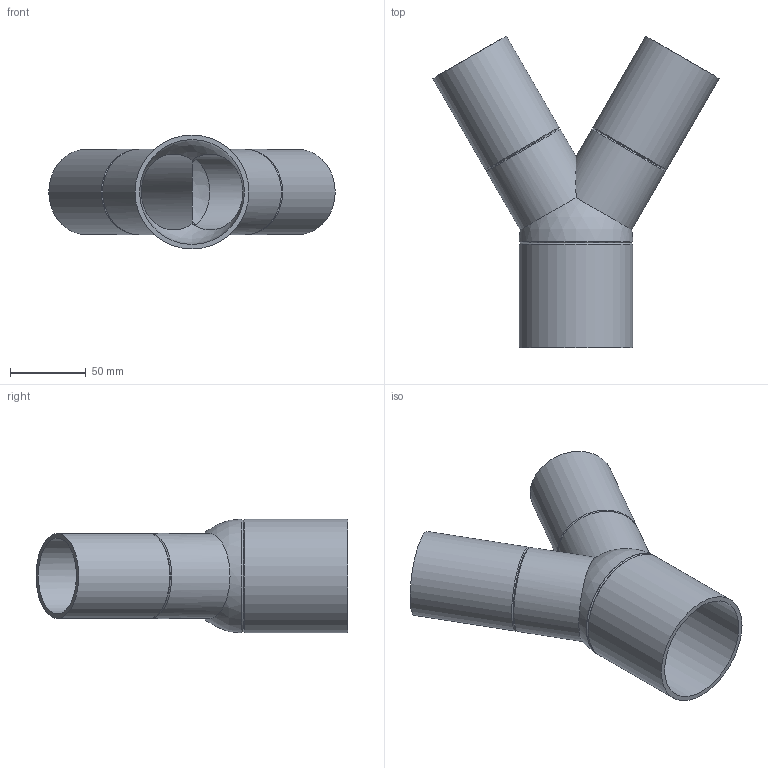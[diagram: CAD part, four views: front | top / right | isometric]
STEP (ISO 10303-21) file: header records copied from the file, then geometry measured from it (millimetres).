
FILE_DESCRIPTION(/* description */ (''),/* implementation_level */ '2;1');
FILE_NAME(/* name */ 'Z:\Geberit\Export\NewStep\365465.stp',/* time_stamp */ '2014-04-02T07:34:13+02:00',/* author */ ('nelson'),/* organization */ (''),/* preprocessor_version */ 'ST-DEVELOPER v15.2',/* originating_system */ 'Autodesk Inventor 2014',/* authorisation */ '');
FILE_SCHEMA (('AUTOMOTIVE_DESIGN { 1 0 10303 214 3 1 1 }'));
Length unit declared in the file: millimetre
Products named in the file (1): 365465
Bounding box: 188.5 x 205.24 x 75 mm (x, y, z)
Volume: 171609.1 mm3; surface area: 116064 mm2
Topology: 1 solids, 1 shells, 24 faces, 58 edges, 35 vertices
Faces by surface type: cylinder 11, cone 6, plane 4, sphere 3
Full cylindrical faces by diameter (mm): 50 x2, 56 x4, 69 x1, 75 x2
Entity records: 586 total; most frequent: DIRECTION 106, CARTESIAN_POINT 102, ORIENTED_EDGE 60, AXIS2_PLACEMENT_3D 53, EDGE_LOOP 43, EDGE_CURVE 30, CIRCLE 25, VERTEX_POINT 25
